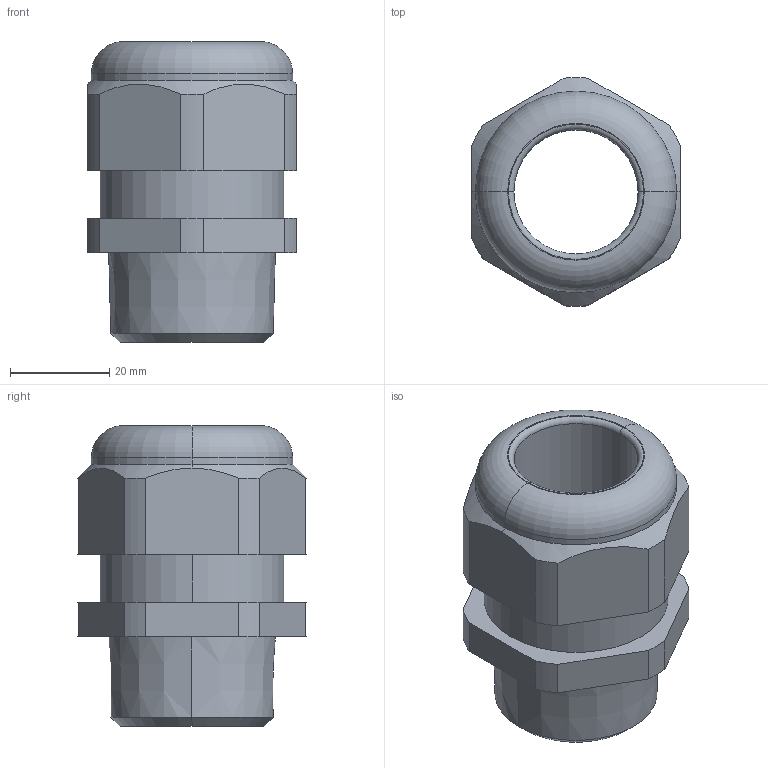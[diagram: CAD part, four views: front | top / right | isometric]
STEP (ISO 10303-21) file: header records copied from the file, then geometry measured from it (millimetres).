
FILE_DESCRIPTION (( 'STEP AP203' ), '1' );
FILE_NAME ('50.110 PA.STEP', '2006-11-07T11:58:37', ( ' ' ), ( '' ), 'SwSTEP 2.0', 'SolidWorks 2005278', '' );
FILE_SCHEMA (( 'CONFIG_CONTROL_DESIGN' ));
Length unit declared in the file: millimetre
Products named in the file (1): 50.110 PA
Bounding box: 42 x 45.97 x 60.5 mm (x, y, z)
Volume: 42535 mm3; surface area: 14421.1 mm2
Topology: 1 solids, 1 shells, 84 faces, 218 edges, 142 vertices
Faces by surface type: plane 54, cylinder 18, cone 6, torus 6
Entity records: 2717 total; most frequent: CARTESIAN_POINT 541, ORIENTED_EDGE 436, DIRECTION 434, EDGE_CURVE 218, VECTOR 156, LINE 156, VERTEX_POINT 142, AXIS2_PLACEMENT_3D 139
